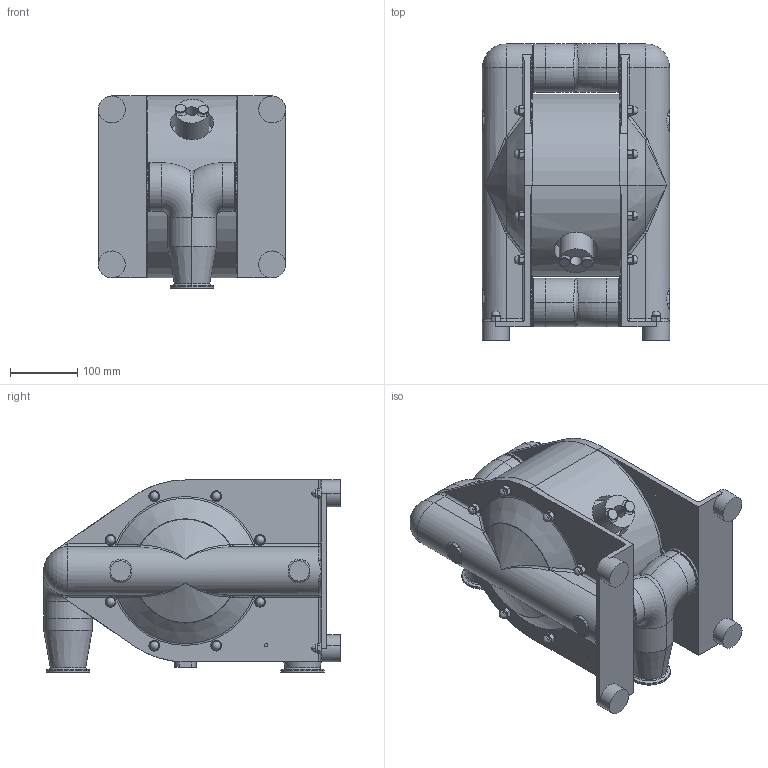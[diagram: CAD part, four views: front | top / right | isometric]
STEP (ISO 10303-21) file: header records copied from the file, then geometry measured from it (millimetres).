
FILE_DESCRIPTION((''),'2;1');
FILE_NAME('LA0008','2019-11-07T13:02:04',('10012362'),(''),'CREO PARAMETRIC BY PTC INC, 2018500','CREO PARAMETRIC BY PTC INC, 2018500','');
FILE_SCHEMA(('CONFIG_CONTROL_DESIGN'));
Length unit declared in the file: inch
Products named in the file (1): LA0008
Bounding box: 278 x 440 x 285 mm (x, y, z)
Volume: 14585967.5 mm3; surface area: 985263.3 mm2
Topology: 1 solids, 7 shells, 1135 faces, 2611 edges, 1522 vertices
Faces by surface type: cylinder 332, plane 297, cone 281, torus 110, bspline 74, sphere 41
Entity records: 42043 total; most frequent: CARTESIAN_POINT 17497, DIRECTION 5172, ORIENTED_EDGE 5042, EDGE_CURVE 2521, AXIS2_PLACEMENT_3D 2292, VERTEX_POINT 1522, EDGE_LOOP 1287, CIRCLE 1231
